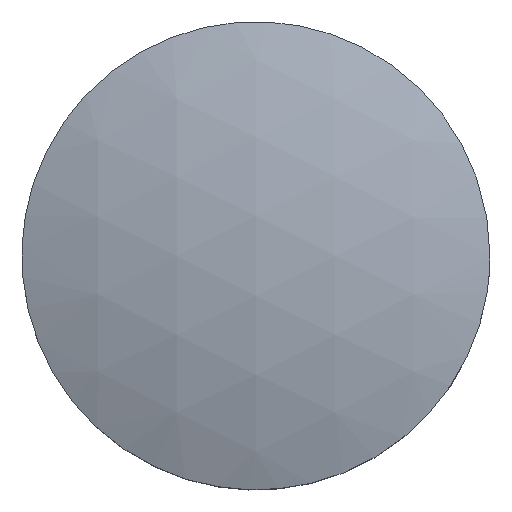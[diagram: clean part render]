
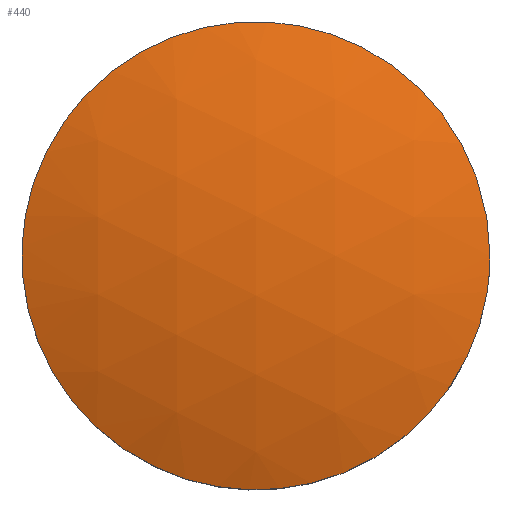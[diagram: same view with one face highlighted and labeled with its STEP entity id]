
A CAD part, top view. The second image highlights one B-rep face of the part: STEP entity #440.
In plain terms, the highlighted spherical face has radius 5.86 mm.
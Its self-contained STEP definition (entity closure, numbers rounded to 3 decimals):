
#230 = CARTESIAN_POINT ('', (2., 0., -12.052));
#240 = VERTEX_POINT ('', #230);
#250 = CARTESIAN_POINT ('', (2., 0., -12.052));
#260 = CARTESIAN_POINT ('', (2., 2., -12.052));
#270 = CARTESIAN_POINT ('', (0., 2., -12.052));
#280 = CARTESIAN_POINT ('', (-2., 2., -12.052));
#290 = CARTESIAN_POINT ('', (-2., 0., -12.052));
#300 = CARTESIAN_POINT ('', (-2., -2., -12.052));
#310 = CARTESIAN_POINT ('', (0., -2., -12.052));
#320 = CARTESIAN_POINT ('', (2., -2., -12.052));
#330 = CARTESIAN_POINT ('', (2., 0., -12.052));
#340 = (
   BOUNDED_CURVE ()
   B_SPLINE_CURVE (2, (#250, #260, #270, #280, #290, #300, #310, #320, #330), .UNSPECIFIED., .T., .U.)
   B_SPLINE_CURVE_WITH_KNOTS ((3, 2, 2, 2, 3), (0., 1.571, 3.142, 4.712, 6.283), .UNSPECIFIED.)
   CURVE ()
   GEOMETRIC_REPRESENTATION_ITEM ()
   RATIONAL_B_SPLINE_CURVE ((1., 0.707, 1., 0.707, 1., 0.707, 1., 0.707, 1.))
   REPRESENTATION_ITEM ('')
);
#350 = EDGE_CURVE ('', #240, #240, #340, .T.);
#360 = ORIENTED_EDGE ('', *, *, #350, .T.);
#370 = EDGE_LOOP ('', (#360));
#380 = FACE_OUTER_BOUND ('', #370, .T.);
#390 = CARTESIAN_POINT ('', (0., 0., -17.56));
#400 = DIRECTION ('', (-1., 0., 0.));
#410 = DIRECTION ('', (0., -1., 0.));
#420 = AXIS2_PLACEMENT_3D ('', #390, #400, #410);
#430 = SPHERICAL_SURFACE ('', #420, 5.86);
#440 = ADVANCED_FACE ('', (#380), #430, .T.);
